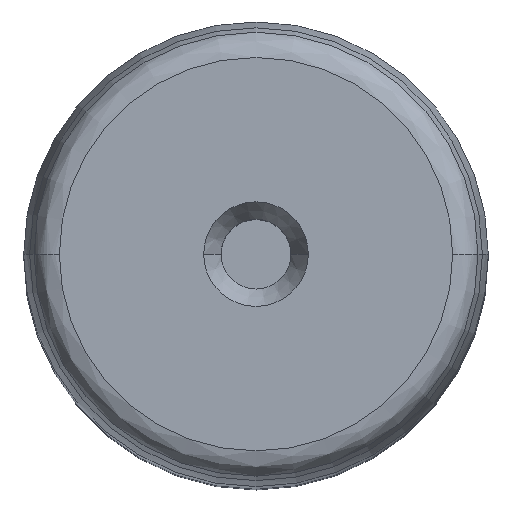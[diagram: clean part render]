
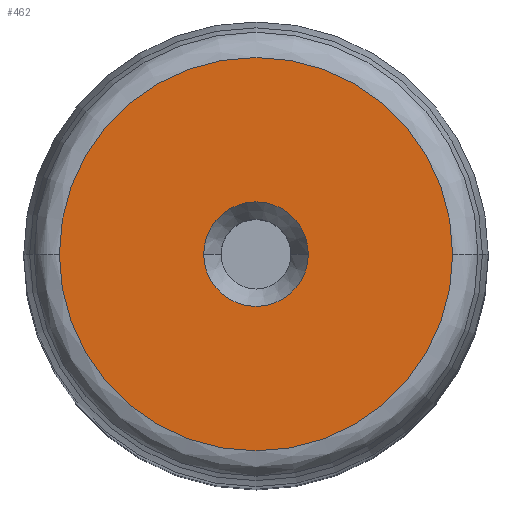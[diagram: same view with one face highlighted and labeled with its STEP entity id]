
A CAD part, top view. The second image highlights one B-rep face of the part: STEP entity #462.
In plain terms, the highlighted planar face has unit normal (0, 0, 1).
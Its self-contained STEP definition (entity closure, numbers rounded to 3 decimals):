
#97=VERTEX_POINT(' ',#98);
#98=CARTESIAN_POINT('',(-9.,0.,350.));
#99=VERTEX_POINT(' ',#100);
#100=CARTESIAN_POINT('',(9.,0.,350.));
#101=VERTEX_POINT(' ',#102);
#102=CARTESIAN_POINT('',(-33.868,0.,350.));
#103=VERTEX_POINT(' ',#104);
#104=CARTESIAN_POINT('',(33.868,0.,350.));
#180=CIRCLE('',#181,9.);
#181=AXIS2_PLACEMENT_3D('',#182,#183,#184);
#182=CARTESIAN_POINT('',(0.,0.,350.));
#183=DIRECTION('',(0.,0.,-1.));
#184=DIRECTION('',(0.,1.,0.));
#185=EDGE_CURVE(' ',#99,#97,#180,.T.);
#191=CIRCLE('',#192,9.);
#192=AXIS2_PLACEMENT_3D('',#193,#194,#195);
#193=CARTESIAN_POINT('',(0.,0.,350.));
#194=DIRECTION('',(0.,0.,-1.));
#195=DIRECTION('',(0.,-1.,0.));
#196=EDGE_CURVE(' ',#97,#99,#191,.T.);
#197=CIRCLE('',#198,33.868);
#198=AXIS2_PLACEMENT_3D('',#199,#200,#201);
#199=CARTESIAN_POINT('',(0.,0.,350.));
#200=DIRECTION('',(0.,0.,-1.));
#201=DIRECTION('',(0.,1.,0.));
#202=EDGE_CURVE(' ',#103,#101,#197,.T.);
#203=CIRCLE('',#204,33.868);
#204=AXIS2_PLACEMENT_3D('',#205,#206,#207);
#205=CARTESIAN_POINT('',(0.,0.,350.));
#206=DIRECTION('',(0.,0.,-1.));
#207=DIRECTION('',(0.,-1.,0.));
#208=EDGE_CURVE(' ',#101,#103,#203,.T.);
#449=ORIENTED_EDGE('',*,*,#202,.F.);
#450=ORIENTED_EDGE('',*,*,#208,.F.);
#451=EDGE_LOOP('',(#449,#450));
#452=FACE_OUTER_BOUND('',#451,.T.);
#453=ORIENTED_EDGE('',*,*,#196,.T.);
#454=ORIENTED_EDGE('',*,*,#185,.T.);
#455=EDGE_LOOP('',(#453,#454));
#456=FACE_BOUND('',#455,.T.);
#457=PLANE('',#458);
#458=AXIS2_PLACEMENT_3D('',#459,#460,#461);
#459=CARTESIAN_POINT('',(0.,0.,350.));
#460=DIRECTION('',(0.,0.,1.));
#461=DIRECTION('',(0.,1.,0.));
#462=ADVANCED_FACE('',(#452,#456),#457,.T.);
